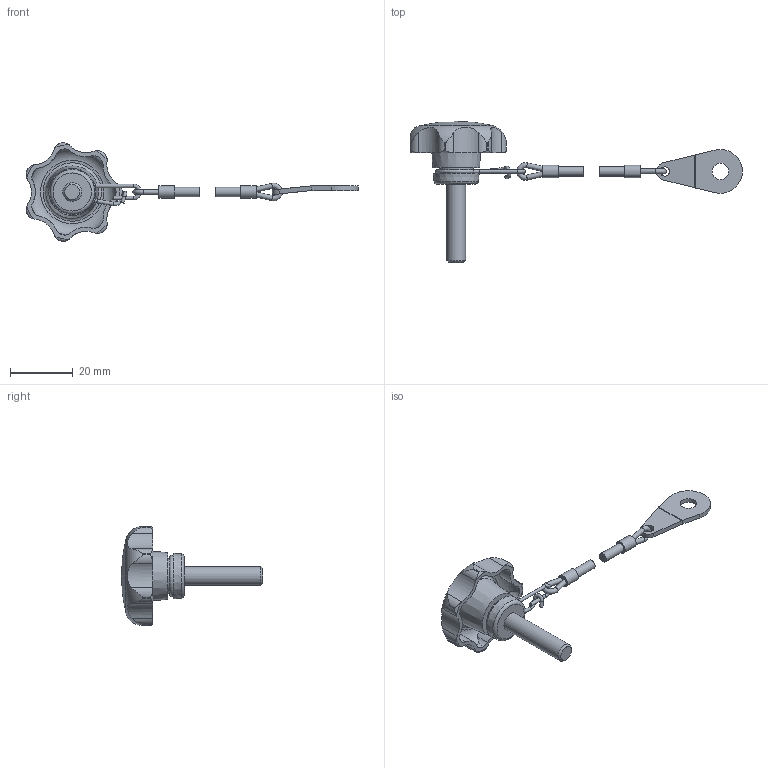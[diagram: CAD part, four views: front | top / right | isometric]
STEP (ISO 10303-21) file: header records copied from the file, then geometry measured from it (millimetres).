
FILE_DESCRIPTION( ( 'STEP AP203' ), '1' );
FILE_NAME( 'C:/Temp/Ganter_Step_05_03_2020/data/2_2/gn_6336_13/gn_6336_13_2/Star knob GN 6336.13-32-M6-25-H.stp', '2020-03-05T12:11:35', ( 'License CC BY-ND 4.0' ), ( 'CADENAS' ), ' ', 'PARTsolutions', ' ' );
FILE_SCHEMA( ( 'CONFIG_CONTROL_DESIGN' ) );
Length unit declared in the file: millimetre
Products named in the file (3): Star knob GN 6336.13-32-M6-25-H; _Star knob GN 6336.13-32-M6-25-H 6; _Star knob GN 111.2-200-14 h2
Assembly tree (2 placements, depth 2):
  Star knob GN 6336.13-32-M6-25-H
    _Star knob GN 6336.13-32-M6-25-H 6
    _Star knob GN 111.2-200-14 h2
Bounding box: 105.8 x 45 x 31.36 mm (x, y, z)
Volume: 7065 mm3; surface area: 5099.6 mm2
Topology: 2 solids, 2 shells, 137 faces, 377 edges, 245 vertices
Faces by surface type: cylinder 75, plane 30, torus 20, cone 11, sphere 1
Full cylindrical faces by diameter (mm): 1.1 x4, 1.11 x1, 1.6 x4, 3 x3, 4 x2, 5.3 x1, 6 x1, 10.9 x1
Entity records: 5106 total; most frequent: CARTESIAN_POINT 1802, DIRECTION 652, ORIENTED_EDGE 642, EDGE_CURVE 321, AXIS2_PLACEMENT_3D 281, VERTEX_POINT 231, EDGE_LOOP 187, FACE_OUTER_BOUND 166
